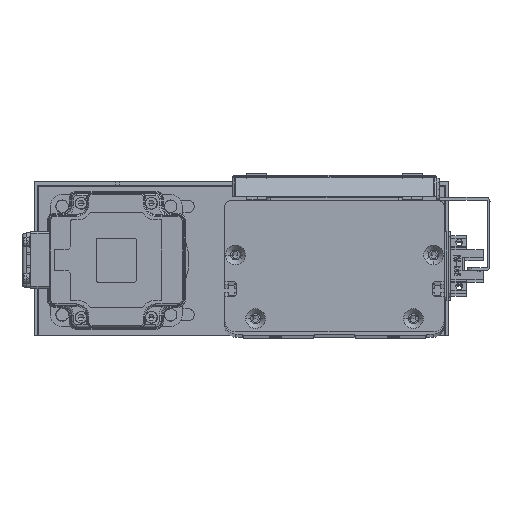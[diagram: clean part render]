
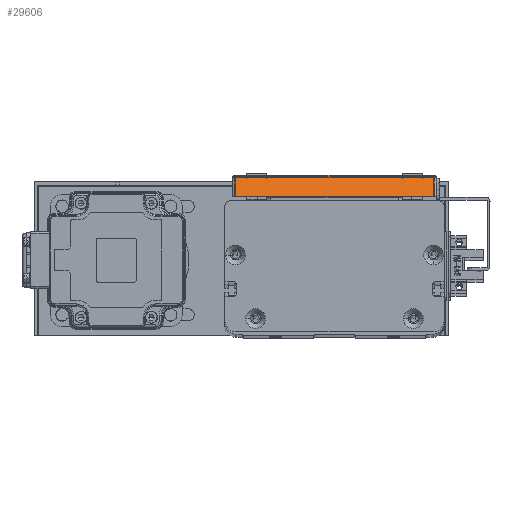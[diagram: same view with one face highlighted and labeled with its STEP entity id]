
A CAD part, top view. The second image highlights one B-rep face of the part: STEP entity #29606.
In plain terms, the highlighted planar face has unit normal (0, 0.707, 0.707) as drawn and (-0.707, 0, -0.707) by its records, which use the part's own axes.
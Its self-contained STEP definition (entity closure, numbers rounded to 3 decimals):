
#5773 = VECTOR ( 'NONE', #68864, 1000. ) ;
#7507 = LINE ( 'NONE', #40222, #5773 ) ;
#7980 = CARTESIAN_POINT ( 'NONE',  ( -66.5, 91.7, 4.1 ) ) ;
#11521 = EDGE_CURVE ( 'NONE', #64839, #67217, #43099, .T. ) ;
#11822 = CARTESIAN_POINT ( 'NONE',  ( -66.5, 93.4, 4.1 ) ) ;
#13054 = FACE_OUTER_BOUND ( 'NONE', #24987, .T. ) ;
#14751 = VERTEX_POINT ( 'NONE', #31309 ) ;
#16971 = ORIENTED_EDGE ( 'NONE', *, *, #49538, .T. ) ;
#18092 = VECTOR ( 'NONE', #22983, 1000. ) ;
#18329 = ORIENTED_EDGE ( 'NONE', *, *, #46032, .T. ) ;
#22983 = DIRECTION ( 'NONE',  ( 0., 1., 0. ) ) ;
#24309 = CARTESIAN_POINT ( 'NONE',  ( -68., 93.4, 5.6 ) ) ;
#24806 = ORIENTED_EDGE ( 'NONE', *, *, #11521, .T. ) ;
#24987 = EDGE_LOOP ( 'NONE', ( #18329, #16971, #24806, #50425 ) ) ;
#29498 = PLANE ( 'NONE',  #63803 ) ;
#29606 = ADVANCED_FACE ( 'NONE', ( #13054 ), #29498, .T. ) ;
#31309 = CARTESIAN_POINT ( 'NONE',  ( -57.298, 1.7, -5.102 ) ) ;
#34361 = LINE ( 'NONE', #48291, #69986 ) ;
#34496 = DIRECTION ( 'NONE',  ( -0.707, 0., -0.707 ) ) ;
#34969 = DIRECTION ( 'NONE',  ( -0.707, 0., 0.707 ) ) ;
#40222 = CARTESIAN_POINT ( 'NONE',  ( -57.298, 93.4, -5.102 ) ) ;
#40531 = DIRECTION ( 'NONE',  ( 0.707, 0., -0.707 ) ) ;
#43099 = LINE ( 'NONE', #62313, #52407 ) ;
#44068 = CARTESIAN_POINT ( 'NONE',  ( -57.298, 91.7, -5.102 ) ) ;
#44113 = EDGE_CURVE ( 'NONE', #67217, #14751, #7507, .T. ) ;
#46032 = EDGE_CURVE ( 'NONE', #14751, #64485, #34361, .T. ) ;
#47128 = CARTESIAN_POINT ( 'NONE',  ( -66.5, 1.7, 4.1 ) ) ;
#48291 = CARTESIAN_POINT ( 'NONE',  ( -68., 1.7, 5.6 ) ) ;
#49538 = EDGE_CURVE ( 'NONE', #64485, #64839, #50323, .T. ) ;
#50323 = LINE ( 'NONE', #11822, #18092 ) ;
#50425 = ORIENTED_EDGE ( 'NONE', *, *, #44113, .T. ) ;
#52407 = VECTOR ( 'NONE', #40531, 1000. ) ;
#62313 = CARTESIAN_POINT ( 'NONE',  ( -68., 91.7, 5.6 ) ) ;
#63803 = AXIS2_PLACEMENT_3D ( 'NONE', #24309, #34496, #34969 ) ;
#64485 = VERTEX_POINT ( 'NONE', #47128 ) ;
#64839 = VERTEX_POINT ( 'NONE', #7980 ) ;
#67217 = VERTEX_POINT ( 'NONE', #44068 ) ;
#68864 = DIRECTION ( 'NONE',  ( 0., -1., 0. ) ) ;
#69986 = VECTOR ( 'NONE', #70070, 1000. ) ;
#70070 = DIRECTION ( 'NONE',  ( -0.707, 0., 0.707 ) ) ;
